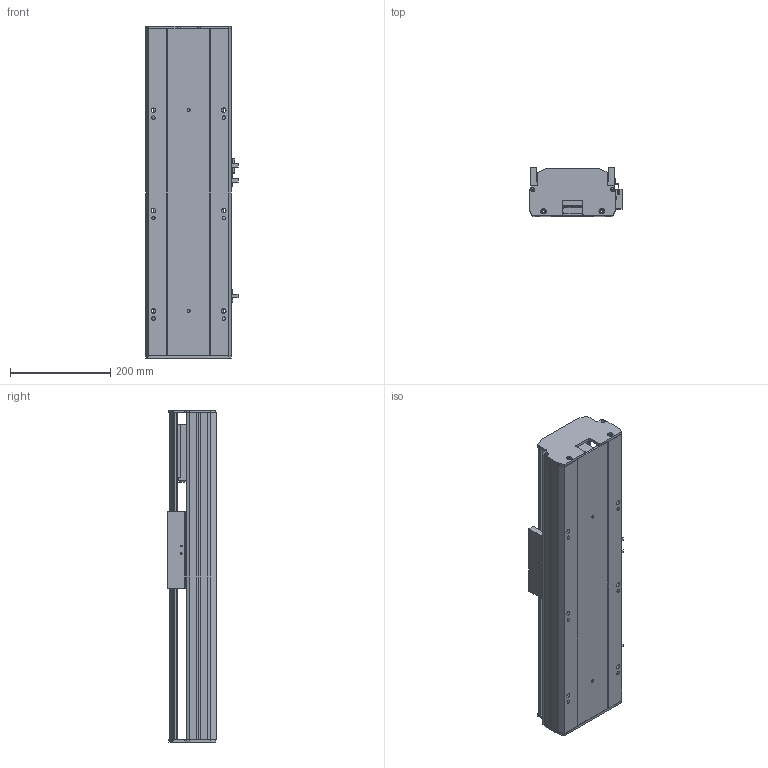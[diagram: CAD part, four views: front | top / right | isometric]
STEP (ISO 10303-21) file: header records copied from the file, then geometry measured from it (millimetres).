
FILE_DESCRIPTION (( 'STEP AP203' ), '1' );
FILE_NAME ('Y170-D10-S250-M-P400W.STEP', '2020-01-22T12:32:00', ( '微软用户' ), ( '微软中国' ), 'SwSTEP 2.0', 'SolidWorks 2017', '' );
FILE_SCHEMA (( 'CONFIG_CONTROL_DESIGN' ));
Length unit declared in the file: millimetre
Products named in the file (10): Y170耜裔--準---M; san松下电机400不带刹车----; Y170-陔遴奻裔-M; Y170-D10-S250-M-P400W; 135-盓傅釱-FK15; Y170耜裔--準---; Y170--雄赽釱-梓--; YD-Y100-135-新外置传感挡片(通用）; 170--掛极-M; Y100-135俋离換覜ん
Assembly tree (11 placements, depth 2):
  Y170-D10-S250-M-P400W
    YD-Y100-135-新外置传感挡片(通用）
    Y100-135俋离換覜ん  x3
    135-盓傅釱-FK15
    Y170耜裔--準---
    Y170--雄赽釱-梓--
    170--掛极-M
    Y170耜裔--準---M
    san松下电机400不带刹车----
    Y170-陔遴奻裔-M
Bounding box: 183.5 x 97 x 661 mm (x, y, z)
Volume: 3252992.1 mm3; surface area: 1097536.1 mm2
Topology: 11 solids, 11 shells, 749 faces, 2084 edges, 1380 vertices
Faces by surface type: plane 384, cylinder 363, torus 2
Entity records: 23740 total; most frequent: CARTESIAN_POINT 4073, DIRECTION 3982, ORIENTED_EDGE 3832, EDGE_CURVE 1916, AXIS2_PLACEMENT_3D 1401, VERTEX_POINT 1268, VECTOR 1180, LINE 1180
